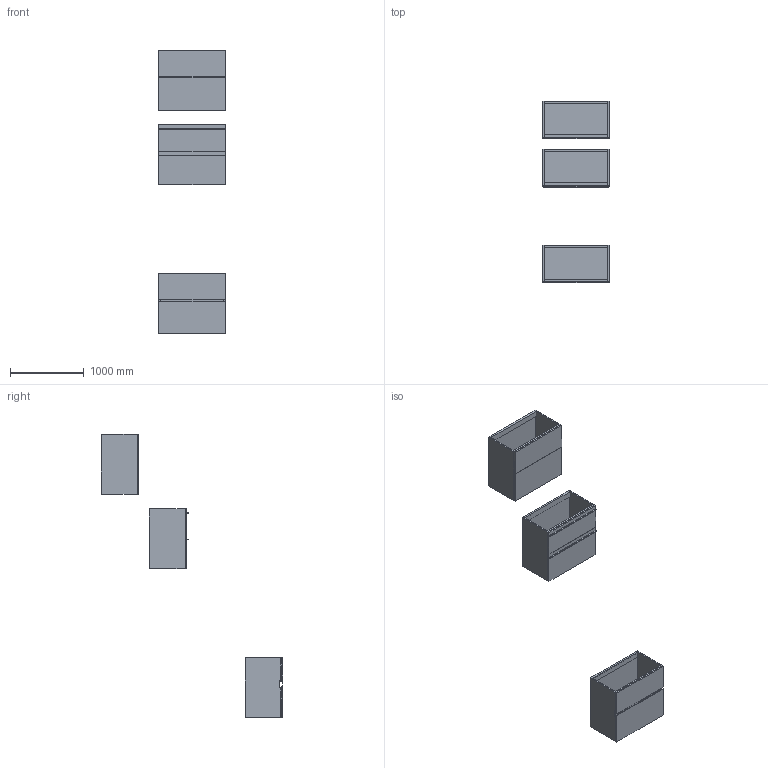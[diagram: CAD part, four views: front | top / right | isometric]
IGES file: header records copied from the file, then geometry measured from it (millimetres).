
Start section: Data from Parasolid IGES Translator 19.0.9, Copyright(c) 2006 Siemens PL M Software. All Rights Reserved.
Global section: file name: noorth-SI-H 81,2 D 51 W 90_9722.igs; native system: By Siemens PLM Incorporated; preprocessor: XPlus GENERIC/IGES 19.0.9; author: Noname; organization: Noname; date: 20200601.140816; units: metre
Bounding box: 900 x 2458 x 3842 mm (x, y, z)
Volume: 112779112.3 mm3; surface area: 17479516.3 mm2
Topology: 27 solids, 27 shells, 266 faces, 580 edges, 348 vertices
Faces by surface type: plane 182, extrusion 36, bspline 32, cylinder 16
